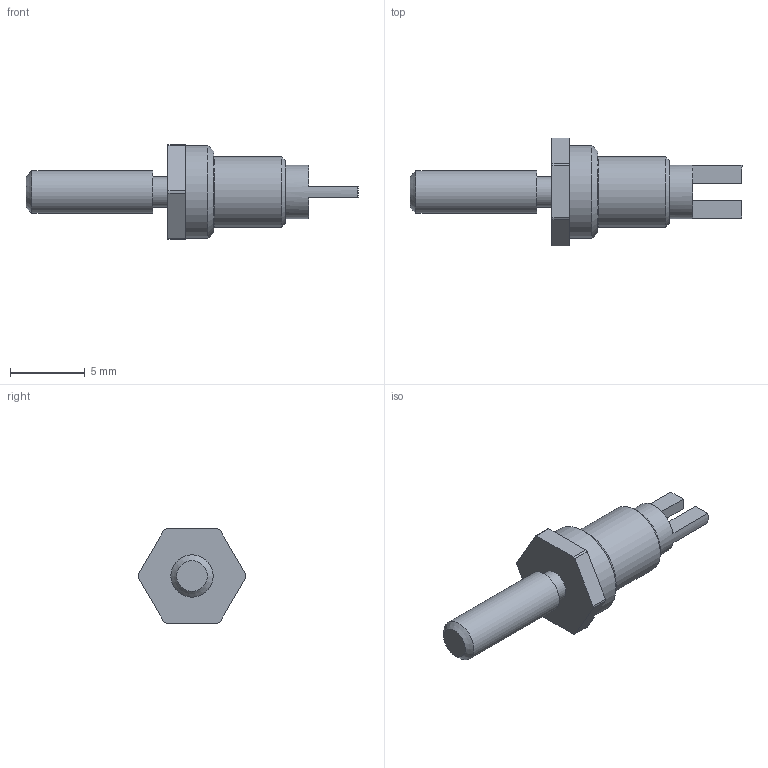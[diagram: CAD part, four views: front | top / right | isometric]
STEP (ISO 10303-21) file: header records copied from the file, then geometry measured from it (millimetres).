
FILE_DESCRIPTION(/* description */ (''),/* implementation_level */ '2;1');
FILE_NAME(/* name */ '\\Snap1\dwgs\Customer 3D Models\570\570-2430-02 Customer model.stp',/* time_stamp */ '2017-01-04T10:44:14+00:00',/* author */ ('paulk'),/* organization */ (''),/* preprocessor_version */ 'ST-DEVELOPER v15.2',/* originating_system */ 'Autodesk Inventor 2014',/* authorisation */ '');
FILE_SCHEMA (('CONFIG_CONTROL_DESIGN'));
Length unit declared in the file: millimetre
Products named in the file (1): 570-2430-02 Customer model
Bounding box: 22.28 x 7.24 x 6.34 mm (x, y, z)
Volume: 260.3 mm3; surface area: 328.7 mm2
Topology: 1 solids, 1 shells, 36 faces, 85 edges, 55 vertices
Faces by surface type: plane 20, cylinder 11, cone 5
Full cylindrical faces by diameter (mm): 2.057 x1, 2.845 x1, 3.581 x1, 4.75 x1, 6.223 x1
Entity records: 1048 total; most frequent: DIRECTION 176, CARTESIAN_POINT 163, ORIENTED_EDGE 146, EDGE_CURVE 73, AXIS2_PLACEMENT_3D 66, VERTEX_POINT 53, EDGE_LOOP 50, LINE 44
